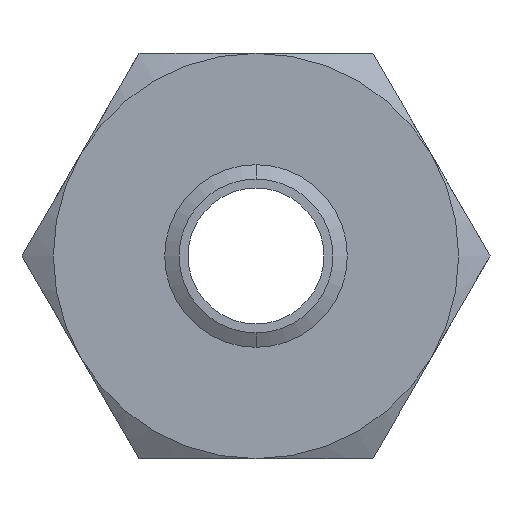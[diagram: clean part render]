
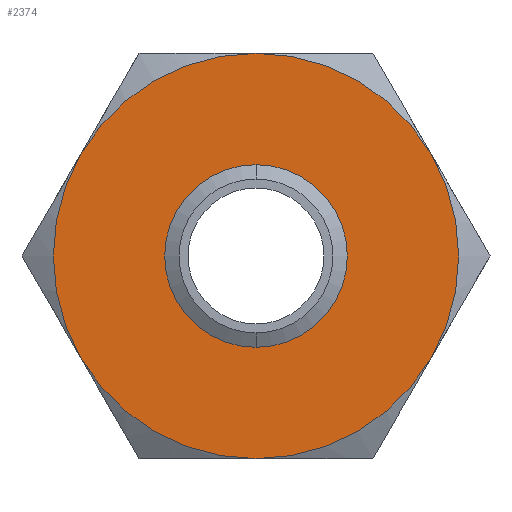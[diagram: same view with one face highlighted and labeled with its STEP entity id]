
A CAD part, front view. The second image highlights one B-rep face of the part: STEP entity #2374.
In plain terms, the highlighted planar face has unit normal (0, -1, 0).
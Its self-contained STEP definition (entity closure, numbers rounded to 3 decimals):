
#56 = EDGE_CURVE ( 'NONE', #2264, #2263, #635, .T. ) ;
#358 = ORIENTED_EDGE ( 'NONE', *, *, #2388, .F. ) ;
#363 = ORIENTED_EDGE ( 'NONE', *, *, #2405, .F. ) ;
#366 = VERTEX_POINT ( 'NONE', #1225 ) ;
#635 = CIRCLE ( 'NONE', #651, 29.426 ) ;
#647 = DIRECTION ( 'NONE',  ( 0., 0., -1. ) ) ;
#648 = DIRECTION ( 'NONE',  ( 0., -1., 0. ) ) ;
#649 = CARTESIAN_POINT ( 'NONE',  ( 0., 0., 0. ) ) ;
#651 = AXIS2_PLACEMENT_3D ( 'NONE', #649, #648, #647 ) ;
#1225 = CARTESIAN_POINT ( 'NONE',  ( 0., 0., 77.5 ) ) ;
#1732 = CARTESIAN_POINT ( 'NONE',  ( 0., 0., -29.426 ) ) ;
#1733 = CARTESIAN_POINT ( 'NONE',  ( 0., 0., 29.426 ) ) ;
#1923 = DIRECTION ( 'NONE',  ( 0., 0., 1. ) ) ;
#1924 = DIRECTION ( 'NONE',  ( 0., 1., 0. ) ) ;
#1925 = CARTESIAN_POINT ( 'NONE',  ( 0., 0., 0. ) ) ;
#1926 = AXIS2_PLACEMENT_3D ( 'NONE', #1925, #1924, #1923 ) ;
#1927 = CIRCLE ( 'NONE', #1926, 77.5 ) ;
#1929 = CARTESIAN_POINT ( 'NONE',  ( -67.117, 0., -38.75 ) ) ;
#1930 = DIRECTION ( 'NONE',  ( 0., 0., 1. ) ) ;
#1931 = DIRECTION ( 'NONE',  ( 0., 1., 0. ) ) ;
#1932 = CARTESIAN_POINT ( 'NONE',  ( 0., 0., 0. ) ) ;
#1933 = AXIS2_PLACEMENT_3D ( 'NONE', #1932, #1931, #1930 ) ;
#1934 = CIRCLE ( 'NONE', #1933, 77.5 ) ;
#1935 = CARTESIAN_POINT ( 'NONE',  ( -67.117, 0., 38.75 ) ) ;
#1936 = CARTESIAN_POINT ( 'NONE',  ( 0., 0., -77.5 ) ) ;
#1937 = DIRECTION ( 'NONE',  ( 0., 0., 1. ) ) ;
#1938 = DIRECTION ( 'NONE',  ( 0., 1., 0. ) ) ;
#1939 = CARTESIAN_POINT ( 'NONE',  ( 44.745, 0., -77.5 ) ) ;
#1940 = CARTESIAN_POINT ( 'NONE',  ( 67.117, 0., 38.75 ) ) ;
#1941 = AXIS2_PLACEMENT_3D ( 'NONE', #1939, #1938, #1937 ) ;
#1942 = PLANE ( 'NONE',  #1941 ) ;
#1943 = FACE_BOUND ( 'NONE', #2402, .T. ) ;
#1944 = FACE_OUTER_BOUND ( 'NONE', #2376, .T. ) ;
#1961 = DIRECTION ( 'NONE',  ( 0., 0., 1. ) ) ;
#1962 = DIRECTION ( 'NONE',  ( 0., 1., 0. ) ) ;
#1963 = CARTESIAN_POINT ( 'NONE',  ( 0., 0., 0. ) ) ;
#1964 = AXIS2_PLACEMENT_3D ( 'NONE', #1963, #1962, #1961 ) ;
#1965 = CIRCLE ( 'NONE', #1964, 77.5 ) ;
#1966 = CARTESIAN_POINT ( 'NONE',  ( 67.117, 0., -38.75 ) ) ;
#1967 = DIRECTION ( 'NONE',  ( 0., 0., -1. ) ) ;
#1968 = DIRECTION ( 'NONE',  ( 0., -1., 0. ) ) ;
#1969 = CARTESIAN_POINT ( 'NONE',  ( 0., 0., 0. ) ) ;
#1970 = AXIS2_PLACEMENT_3D ( 'NONE', #1969, #1968, #1967 ) ;
#1971 = CIRCLE ( 'NONE', #1970, 29.426 ) ;
#1978 = DIRECTION ( 'NONE',  ( 0., 0., 1. ) ) ;
#1979 = DIRECTION ( 'NONE',  ( 0., 1., 0. ) ) ;
#1980 = CARTESIAN_POINT ( 'NONE',  ( 0., 0., 0. ) ) ;
#1981 = AXIS2_PLACEMENT_3D ( 'NONE', #1980, #1979, #1978 ) ;
#1982 = CIRCLE ( 'NONE', #1981, 77.5 ) ;
#1983 = DIRECTION ( 'NONE',  ( 0., 0., 1. ) ) ;
#1984 = DIRECTION ( 'NONE',  ( 0., 1., 0. ) ) ;
#1985 = CARTESIAN_POINT ( 'NONE',  ( 0., 0., 0. ) ) ;
#1986 = AXIS2_PLACEMENT_3D ( 'NONE', #1985, #1984, #1983 ) ;
#1987 = CIRCLE ( 'NONE', #1986, 77.5 ) ;
#2008 = DIRECTION ( 'NONE',  ( 0., 0., 1. ) ) ;
#2009 = DIRECTION ( 'NONE',  ( 0., 1., 0. ) ) ;
#2010 = CARTESIAN_POINT ( 'NONE',  ( 0., 0., 0. ) ) ;
#2011 = AXIS2_PLACEMENT_3D ( 'NONE', #2010, #2009, #2008 ) ;
#2015 = CIRCLE ( 'NONE', #2011, 77.5 ) ;
#2263 = VERTEX_POINT ( 'NONE', #1733 ) ;
#2264 = VERTEX_POINT ( 'NONE', #1732 ) ;
#2374 = ADVANCED_FACE ( 'NONE', ( #1944, #1943 ), #1942, .F. ) ;
#2375 = VERTEX_POINT ( 'NONE', #1940 ) ;
#2376 = EDGE_LOOP ( 'NONE', ( #2380, #358, #2381, #2396, #363, #2404 ) ) ;
#2377 = VERTEX_POINT ( 'NONE', #1936 ) ;
#2378 = EDGE_CURVE ( 'NONE', #366, #2375, #1934, .T. ) ;
#2379 = VERTEX_POINT ( 'NONE', #1935 ) ;
#2380 = ORIENTED_EDGE ( 'NONE', *, *, #2378, .F. ) ;
#2381 = ORIENTED_EDGE ( 'NONE', *, *, #2389, .F. ) ;
#2383 = VERTEX_POINT ( 'NONE', #1929 ) ;
#2385 = EDGE_CURVE ( 'NONE', #2377, #2383, #1927, .T. ) ;
#2388 = EDGE_CURVE ( 'NONE', #2379, #366, #1987, .T. ) ;
#2389 = EDGE_CURVE ( 'NONE', #2383, #2379, #1982, .T. ) ;
#2391 = EDGE_CURVE ( 'NONE', #2263, #2264, #1971, .T. ) ;
#2393 = VERTEX_POINT ( 'NONE', #1966 ) ;
#2394 = ORIENTED_EDGE ( 'NONE', *, *, #2391, .F. ) ;
#2395 = ORIENTED_EDGE ( 'NONE', *, *, #56, .F. ) ;
#2396 = ORIENTED_EDGE ( 'NONE', *, *, #2385, .F. ) ;
#2397 = EDGE_CURVE ( 'NONE', #2375, #2393, #1965, .T. ) ;
#2402 = EDGE_LOOP ( 'NONE', ( #2395, #2394 ) ) ;
#2404 = ORIENTED_EDGE ( 'NONE', *, *, #2397, .F. ) ;
#2405 = EDGE_CURVE ( 'NONE', #2393, #2377, #2015, .T. ) ;
